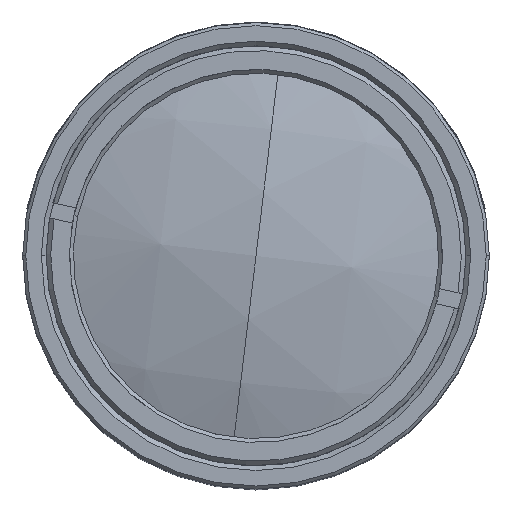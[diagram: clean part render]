
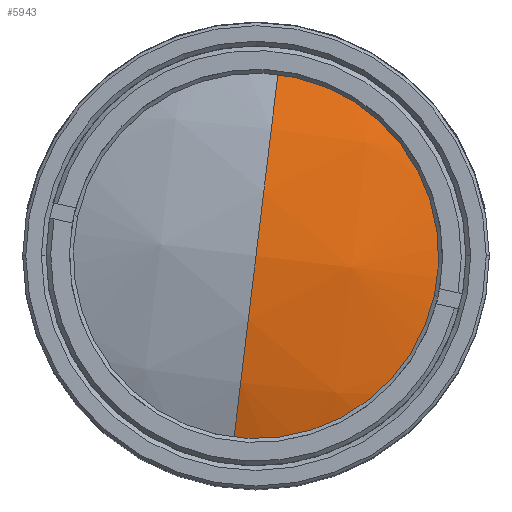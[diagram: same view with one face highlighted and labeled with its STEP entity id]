
A CAD part, top view. The second image highlights one B-rep face of the part: STEP entity #5943.
In plain terms, the highlighted spherical face has radius 37.8 mm.
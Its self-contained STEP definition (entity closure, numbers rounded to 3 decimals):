
#687 = DIRECTION ( 'NONE',  ( -0.993, 0.12, 0. ) ) ;
#824 = CIRCLE ( 'NONE', #11464, 37.8 ) ;
#961 = CIRCLE ( 'NONE', #4674, 12.194 ) ;
#1559 = DIRECTION ( 'NONE',  ( 0.12, 0.993, 0. ) ) ;
#2523 = CARTESIAN_POINT ( 'NONE',  ( 0., 0., 107.769 ) ) ;
#3520 = DIRECTION ( 'NONE',  ( -0.993, 0.12, 0. ) ) ;
#3572 = CIRCLE ( 'NONE', #9353, 12.194 ) ;
#3600 = AXIS2_PLACEMENT_3D ( 'NONE', #4994, #6003, #1559 ) ;
#4123 = DIRECTION ( 'NONE',  ( -0.993, 0.12, 0. ) ) ;
#4130 = CARTESIAN_POINT ( 'NONE',  ( 12.106, -1.463, 143.548 ) ) ;
#4158 = EDGE_CURVE ( 'NONE', #11738, #4755, #961, .T. ) ;
#4355 = DIRECTION ( 'NONE',  ( 0., 0., 1. ) ) ;
#4674 = AXIS2_PLACEMENT_3D ( 'NONE', #9349, #12603, #4123 ) ;
#4695 = DIRECTION ( 'NONE',  ( 0.12, 0.993, 0. ) ) ;
#4755 = VERTEX_POINT ( 'NONE', #4873 ) ;
#4873 = CARTESIAN_POINT ( 'NONE',  ( 1.463, 12.106, 143.548 ) ) ;
#4912 = ORIENTED_EDGE ( 'NONE', *, *, #10808, .T. ) ;
#4994 = CARTESIAN_POINT ( 'NONE',  ( 0., 0., 107.769 ) ) ;
#5769 = ORIENTED_EDGE ( 'NONE', *, *, #8715, .T. ) ;
#5943 = ADVANCED_FACE ( 'NONE', ( #6579 ), #6785, .T. ) ;
#6003 = DIRECTION ( 'NONE',  ( 0.993, -0.12, 0. ) ) ;
#6026 = ORIENTED_EDGE ( 'NONE', *, *, #4158, .T. ) ;
#6579 = FACE_OUTER_BOUND ( 'NONE', #10891, .T. ) ;
#6785 = SPHERICAL_SURFACE ( 'NONE', #8024, 37.8 ) ;
#6925 = VERTEX_POINT ( 'NONE', #13770 ) ;
#7358 = DIRECTION ( 'NONE',  ( -0.12, -0.993, 0. ) ) ;
#7394 = ORIENTED_EDGE ( 'NONE', *, *, #11366, .F. ) ;
#7425 = CARTESIAN_POINT ( 'NONE',  ( 0., 0., 107.769 ) ) ;
#7459 = CARTESIAN_POINT ( 'NONE',  ( 0., 0., 145.569 ) ) ;
#8024 = AXIS2_PLACEMENT_3D ( 'NONE', #2523, #3520, #4695 ) ;
#8715 = EDGE_CURVE ( 'NONE', #4755, #11721, #9837, .T. ) ;
#8801 = CARTESIAN_POINT ( 'NONE',  ( 0., 0., 143.548 ) ) ;
#9349 = CARTESIAN_POINT ( 'NONE',  ( 0., 0., 143.548 ) ) ;
#9353 = AXIS2_PLACEMENT_3D ( 'NONE', #8801, #4355, #13224 ) ;
#9837 = CIRCLE ( 'NONE', #3600, 37.8 ) ;
#10808 = EDGE_CURVE ( 'NONE', #6925, #11738, #3572, .T. ) ;
#10891 = EDGE_LOOP ( 'NONE', ( #7394, #4912, #6026, #5769 ) ) ;
#11366 = EDGE_CURVE ( 'NONE', #6925, #11721, #824, .T. ) ;
#11464 = AXIS2_PLACEMENT_3D ( 'NONE', #7425, #687, #7358 ) ;
#11721 = VERTEX_POINT ( 'NONE', #7459 ) ;
#11738 = VERTEX_POINT ( 'NONE', #4130 ) ;
#12603 = DIRECTION ( 'NONE',  ( 0., 0., 1. ) ) ;
#13224 = DIRECTION ( 'NONE',  ( -0.993, 0.12, 0. ) ) ;
#13770 = CARTESIAN_POINT ( 'NONE',  ( -1.463, -12.106, 143.548 ) ) ;
